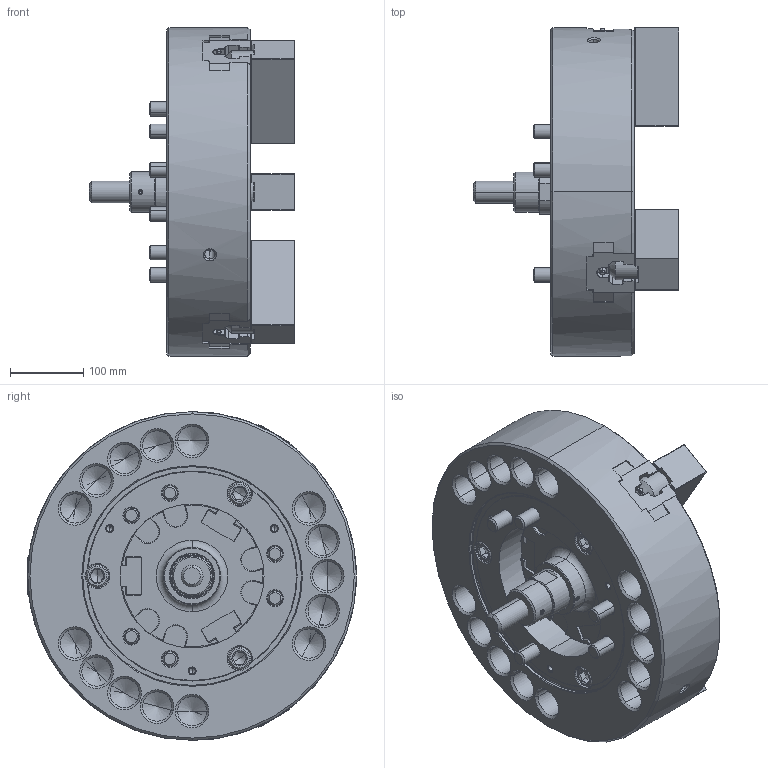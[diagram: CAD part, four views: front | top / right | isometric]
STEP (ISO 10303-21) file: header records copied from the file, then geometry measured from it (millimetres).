
FILE_DESCRIPTION (( 'STEP AP214' ), '1' );
FILE_NAME ('DT1_NL18_OUTSIDE_VIEW_UC.STEP', '2026-03-22T23:23:59', ( '' ), ( '' ), 'SwSTEP 2.0', 'SolidWorks 2022', '' );
FILE_SCHEMA (( 'AUTOMOTIVE_DESIGN' ));
Length unit declared in the file: millimetre
Products named in the file (11): DT1_NL18_DN^DT1_NL18; DT1_NL18_DRAWSCREW^DT1_NL18; DT1_NL18_M20x55^DT1_NL18; DT1_NL18_OUTSIDE_VIEW_UC; DT1_NL18_TNUT^DT1_NL18; DT1_NL18_COVER^DT1_NL18; DT1_NL18_M20x115^DT1_NL18; Copy of 61P321208^DT1_NL18; DT1_NL18_M6x12^DT1_NL18; DT1_NL18_BASE^DT1_NL18_開端; DT1_NL18_SOFTJAW^DT1_NL18
Assembly tree (29 placements, depth 2):
  DT1_NL18_OUTSIDE_VIEW_UC
    DT1_NL18_SOFTJAW^DT1_NL18  x3
    DT1_NL18_TNUT^DT1_NL18  x6
    DT1_NL18_COVER^DT1_NL18
    DT1_NL18_DRAWSCREW^DT1_NL18
    Copy of 61P321208^DT1_NL18
    DT1_NL18_M6x12^DT1_NL18  x3
    DT1_NL18_M20x115^DT1_NL18  x6
    DT1_NL18_M20x55^DT1_NL18  x6
    DT1_NL18_DN^DT1_NL18
    DT1_NL18_BASE^DT1_NL18_開端
Bounding box: 281 x 450.25 x 450 mm (x, y, z)
Volume: 16348850.4 mm3; surface area: 1247813.1 mm2
Topology: 29 solids, 35 shells, 7174 faces, 20341 edges, 13331 vertices
Faces by surface type: plane 5064, cylinder 915, bspline 611, cone 517, torus 67
Entity records: 206271 total; most frequent: CARTESIAN_POINT 66373, ORIENTED_EDGE 31906, DIRECTION 24408, EDGE_CURVE 15953, VECTOR 12000, LINE 12000, VERTEX_POINT 10497, AXIS2_PLACEMENT_3D 6204
